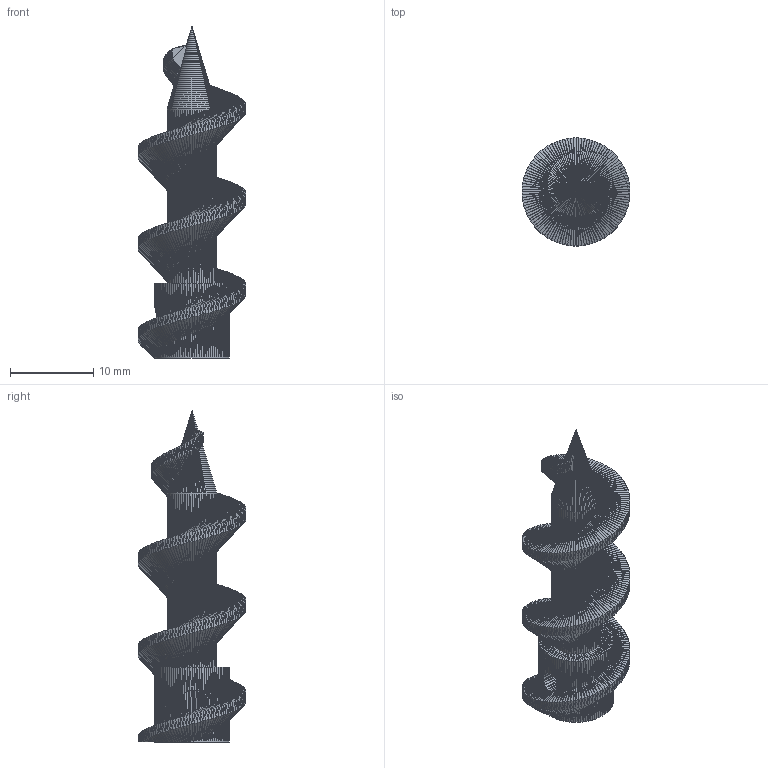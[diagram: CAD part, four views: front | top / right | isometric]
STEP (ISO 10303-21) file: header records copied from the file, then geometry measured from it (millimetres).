
FILE_DESCRIPTION(('Open CASCADE Model'),'2;1');
FILE_NAME('Open CASCADE Shape Model','2026-11-07T02:30:21',('Author'),( 'Open CASCADE'),'Open CASCADE STEP processor 8.0','build123d', 'Unknown');
FILE_SCHEMA(('AUTOMOTIVE_DESIGN { 1 0 10303 214 1 1 1 1 }'));
Products named in the file (1): SOLID
Bounding box: 13 x 13 x 40 mm (x, y, z)
Volume: 1952.1 mm3; surface area: 1540.5 mm2
Topology: 1 solids, 1 shells, 6644 faces, 9966 edges, 3322 vertices
Faces by surface type: plane 6644
Entity records: 249168 total; most frequent: CARTESIAN_POINT 49831, DIRECTION 33222, ORIENTED_EDGE 19932, LINE 19932, VECTOR 19932, PCURVE 19932, DEFINITIONAL_REPRESENTATION 19932, EDGE_CURVE 9966
